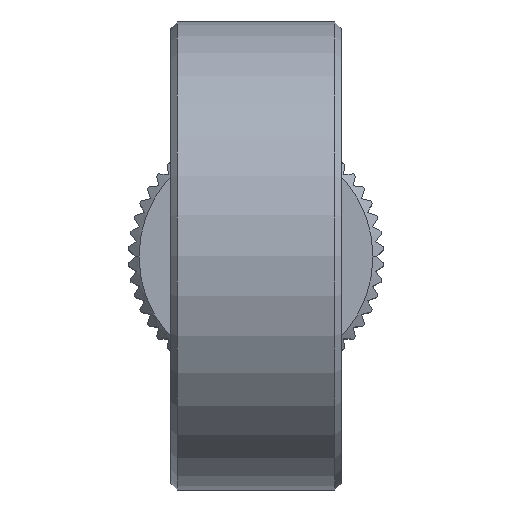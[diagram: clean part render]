
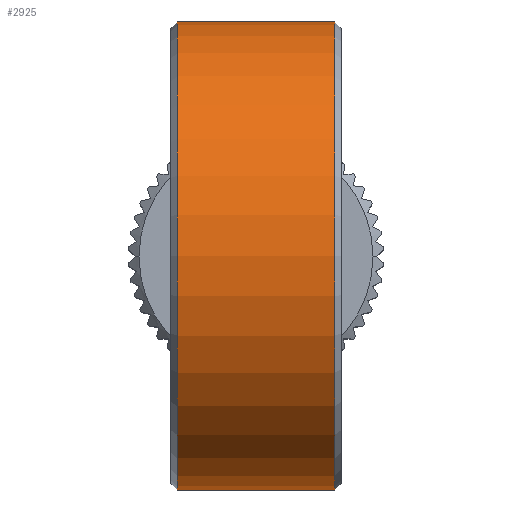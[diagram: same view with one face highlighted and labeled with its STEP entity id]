
A CAD part, top view. The second image highlights one B-rep face of the part: STEP entity #2925.
In plain terms, the highlighted cylindrical face has radius 11 mm (diameter 22 mm), a partial arc.
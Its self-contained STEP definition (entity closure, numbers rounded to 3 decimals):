
#46=CARTESIAN_POINT('',(3.7,0.,0.));
#47=DIRECTION('',(1.,0.,0.));
#48=DIRECTION('',(0.,1.,0.));
#49=AXIS2_PLACEMENT_3D('',#46,#47,#48);
#51=CARTESIAN_POINT('',(-3.7,0.,0.));
#52=DIRECTION('',(-1.,0.,0.));
#53=DIRECTION('',(0.,-1.,0.));
#54=AXIS2_PLACEMENT_3D('',#51,#52,#53);
#56=DIRECTION('',(1.,0.,0.));
#57=VECTOR('',#56,7.4);
#58=CARTESIAN_POINT('',(-3.7,11.,0.));
#59=LINE('',#58,#57);
#155=DIRECTION('',(1.,0.,0.));
#156=VECTOR('',#155,7.4);
#157=CARTESIAN_POINT('',(-3.7,-11.,
0.));
#158=LINE('',#157,#156);
#2785=CARTESIAN_POINT('',(3.7,-11.,0.));
#2786=CARTESIAN_POINT('',(3.7,11.,0.));
#2787=VERTEX_POINT('',#2785);
#2788=VERTEX_POINT('',#2786);
#2793=CARTESIAN_POINT('',(-3.7,11.,0.));
#2794=CARTESIAN_POINT('',(-3.7,-11.,0.));
#2795=VERTEX_POINT('',#2793);
#2796=VERTEX_POINT('',#2794);
#2911=CARTESIAN_POINT('',(-4.,0.,0.));
#2912=DIRECTION('',(1.,0.,0.));
#2913=DIRECTION('',(0.,-1.,0.));
#2914=AXIS2_PLACEMENT_3D('',#2911,#2912,#2913);
#2915=CYLINDRICAL_SURFACE('',#2914,11.);
#2917=ORIENTED_EDGE('',*,*,#2916,.T.);
#2919=ORIENTED_EDGE('',*,*,#2918,.F.);
#2920=ORIENTED_EDGE('',*,*,#2905,.T.);
#2922=ORIENTED_EDGE('',*,*,#2921,.T.);
#2923=EDGE_LOOP('',(#2917,#2919,#2920,#2922));
#2924=FACE_OUTER_BOUND('',#2923,.F.);
#2925=ADVANCED_FACE('',(#2924),#2915,.T.);
#50=CIRCLE('',#49,11.);
#55=CIRCLE('',#54,11.);
#2905=EDGE_CURVE('',#2796,#2795,#55,.T.);
#2916=EDGE_CURVE('',#2788,#2787,#50,.T.);
#2918=EDGE_CURVE('',#2796,#2787,#158,.T.);
#2921=EDGE_CURVE('',#2795,#2788,#59,.T.);
